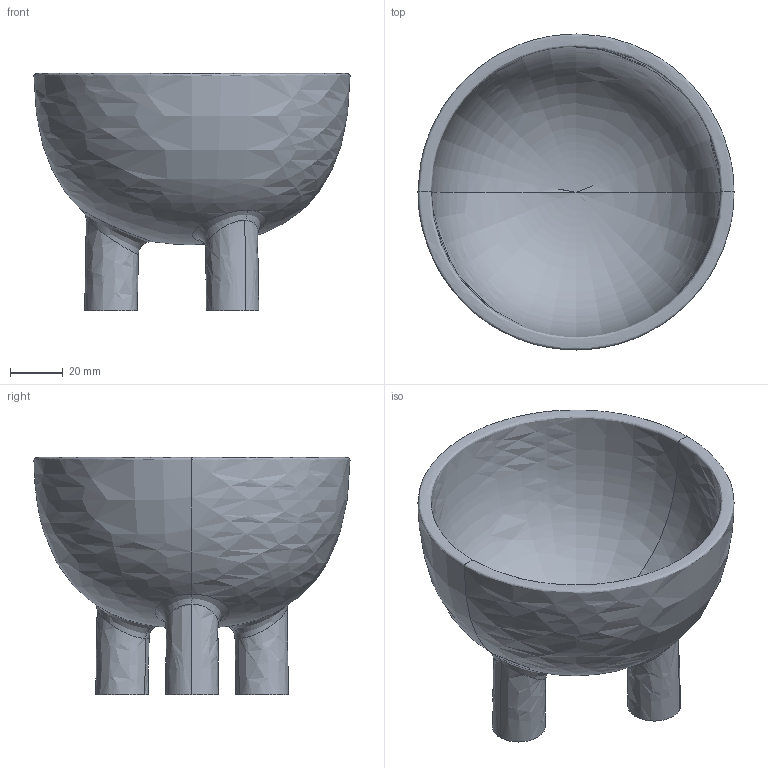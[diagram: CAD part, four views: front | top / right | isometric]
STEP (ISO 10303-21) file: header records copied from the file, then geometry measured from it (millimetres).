
FILE_DESCRIPTION(/* description */ (''),/* implementation_level */ '2;1');
FILE_NAME(/* name */ 'Duck Bowl Small',/* time_stamp */ '2020-03-03T14:15:50+01:00',/* author */ (''),/* organization */ (''),/* preprocessor_version */ 'ST-DEVELOPER v15',/* originating_system */ '',/* authorisation */ '');
FILE_SCHEMA (('AUTOMOTIVE_DESIGN'));
Length unit declared in the file: millimetre
Products named in the file (1): Document
Bounding box: 119.99 x 119.99 x 90 mm (x, y, z)
Volume: 351702 mm3; surface area: 54367.8 mm2
Topology: 1 solids, 1 shells, 17 faces, 39 edges, 22 vertices
Faces by surface type: bspline 14, plane 3
Entity records: 1853 total; most frequent: CARTESIAN_POINT 1630, ORIENTED_EDGE 70, EDGE_CURVE 35, VERTEX_POINT 22, EDGE_LOOP 19, ADVANCED_FACE 17, FACE_OUTER_BOUND 17, B_SPLINE_CURVE_WITH_KNOTS 7
